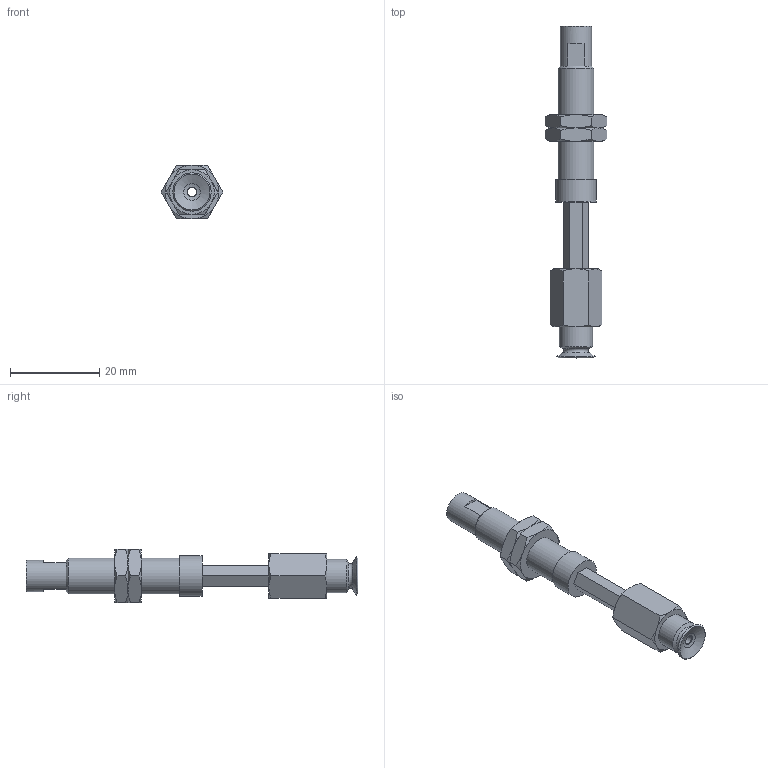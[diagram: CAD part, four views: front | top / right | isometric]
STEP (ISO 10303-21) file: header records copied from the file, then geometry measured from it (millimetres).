
FILE_DESCRIPTION(('STEP AP203'),'1');
FILE_NAME('.stp','2025-08-27T03:05:31',(' '),(' '),'Spatial InterOp 3D',' ',' ');
FILE_SCHEMA(('CONFIG_CONTROL_DESIGN'));
Length unit declared in the file: millimetre
Products named in the file (6): BNABPFTH-8A-15-※; ADAPTER; NAPATH-10A-15--M; Nut-8A-15-h; NAPFTH-8A-15-FBODY; BPFG-8A-※
Assembly tree (6 placements, depth 2):
  BNABPFTH-8A-15-※
    ADAPTER
    NAPATH-10A-15--M
    Nut-8A-15-h  x2
    NAPFTH-8A-15-FBODY
    BPFG-8A-※
Bounding box: 13.86 x 74.5 x 12 mm (x, y, z)
Volume: 3823.3 mm3; surface area: 4607.5 mm2
Topology: 6 solids, 6 shells, 123 faces, 266 edges, 161 vertices
Faces by surface type: plane 52, cone 46, cylinder 14, torus 10, bspline 1
Full cylindrical faces by diameter (mm): 2 x3, 4 x2, 4.134 x1, 6 x2, 7 x1, 7.188 x2, 7.5 x1, 8 x1, 9 x1
Entity records: 3003 total; most frequent: CARTESIAN_POINT 724, DIRECTION 412, ORIENTED_EDGE 354, AXIS2_PLACEMENT_3D 177, EDGE_CURVE 177, EDGE_LOOP 148, VERTEX_POINT 125, FACE_OUTER_BOUND 124
